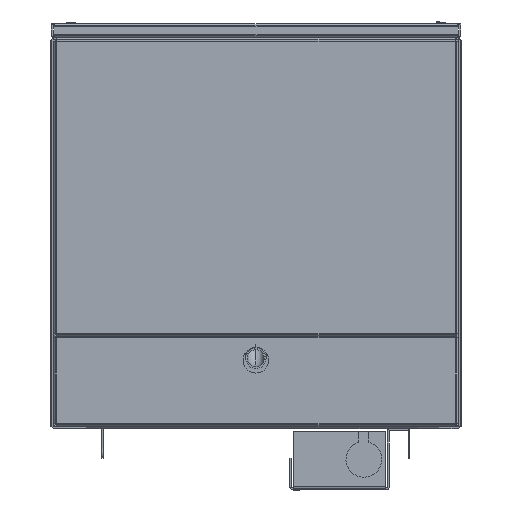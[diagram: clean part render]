
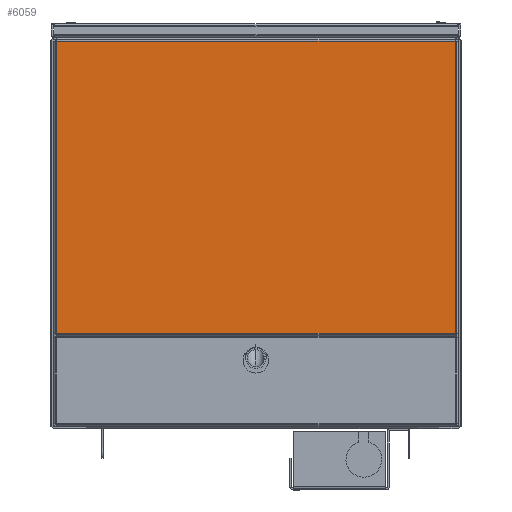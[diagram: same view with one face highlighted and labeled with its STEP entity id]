
A CAD part, front view. The second image highlights one B-rep face of the part: STEP entity #6059.
In plain terms, the highlighted planar face has unit normal (0, -1, 0).
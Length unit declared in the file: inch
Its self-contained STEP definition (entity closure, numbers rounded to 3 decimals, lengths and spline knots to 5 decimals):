
#953 = FACE_OUTER_BOUND ( 'NONE', #7189, .T. ) ;
#1390 = EDGE_CURVE ( 'NONE', #43328, #90370, #92581, .T. ) ;
#1674 = PLANE ( 'NONE',  #22386 ) ;
#2755 = EDGE_CURVE ( 'NONE', #94738, #69387, #55389, .T. ) ;
#2823 = VECTOR ( 'NONE', #66738, 39.37008 ) ;
#3134 = LINE ( 'NONE', #9344, #78979 ) ;
#3152 = CARTESIAN_POINT ( 'NONE',  ( -4.87, -0.048, -3.57 ) ) ;
#3912 = EDGE_CURVE ( 'NONE', #13367, #58535, #72608, .T. ) ;
#6059 = ADVANCED_FACE ( 'NONE', ( #953 ), #1674, .F. ) ;
#7189 = EDGE_LOOP ( 'NONE', ( #45089, #72775, #30278, #52108, #26869, #85538, #33901, #75284, #84517, #86823, #16244, #94510 ) ) ;
#8233 = CARTESIAN_POINT ( 'NONE',  ( 4.87, -0.048, 3.572 ) ) ;
#8728 = CARTESIAN_POINT ( 'NONE',  ( -4.87, -0.048, -3.57 ) ) ;
#8802 = EDGE_CURVE ( 'NONE', #56050, #58535, #90216, .T. ) ;
#9023 = DIRECTION ( 'NONE',  ( 0., 1., 0. ) ) ;
#9344 = CARTESIAN_POINT ( 'NONE',  ( 4.87, -0.048, -3.65 ) ) ;
#11156 = CARTESIAN_POINT ( 'NONE',  ( 4.87, -0.048, 3.65 ) ) ;
#13367 = VERTEX_POINT ( 'NONE', #47564 ) ;
#14110 = DIRECTION ( 'NONE',  ( -1., 0., 0. ) ) ;
#15334 = CARTESIAN_POINT ( 'NONE',  ( -4.872, -0.048, 3.57 ) ) ;
#16244 = ORIENTED_EDGE ( 'NONE', *, *, #47909, .F. ) ;
#17010 = CARTESIAN_POINT ( 'NONE',  ( 4.87, -0.048, 3.57 ) ) ;
#17027 = DIRECTION ( 'NONE',  ( 1., 0., 0. ) ) ;
#17162 = EDGE_CURVE ( 'NONE', #56050, #94605, #76858, .T. ) ;
#20535 = CARTESIAN_POINT ( 'NONE',  ( 4.872, -0.048, 3.57 ) ) ;
#21171 = CARTESIAN_POINT ( 'NONE',  ( 4.87, -0.048, 3.572 ) ) ;
#22386 = AXIS2_PLACEMENT_3D ( 'NONE', #8728, #9023, #60403 ) ;
#24408 = DIRECTION ( 'NONE',  ( 1., 0., 0. ) ) ;
#24456 = DIRECTION ( 'NONE',  ( 0., 0., -1. ) ) ;
#26869 = ORIENTED_EDGE ( 'NONE', *, *, #3912, .F. ) ;
#28414 = VECTOR ( 'NONE', #30336, 39.37008 ) ;
#29244 = VECTOR ( 'NONE', #69058, 39.37008 ) ;
#30278 = ORIENTED_EDGE ( 'NONE', *, *, #17162, .F. ) ;
#30336 = DIRECTION ( 'NONE',  ( 1., 0., 0. ) ) ;
#32637 = DIRECTION ( 'NONE',  ( -1., 0., 0. ) ) ;
#33901 = ORIENTED_EDGE ( 'NONE', *, *, #68042, .T. ) ;
#35876 = VECTOR ( 'NONE', #46627, 39.37008 ) ;
#36440 = CARTESIAN_POINT ( 'NONE',  ( -4.87, -0.048, -3.57 ) ) ;
#36920 = EDGE_CURVE ( 'NONE', #94738, #59853, #46474, .T. ) ;
#42005 = EDGE_CURVE ( 'NONE', #94605, #59853, #3134, .T. ) ;
#43328 = VERTEX_POINT ( 'NONE', #77549 ) ;
#44779 = CARTESIAN_POINT ( 'NONE',  ( -4.87, -0.048, 3.57 ) ) ;
#45089 = ORIENTED_EDGE ( 'NONE', *, *, #36920, .T. ) ;
#45821 = VERTEX_POINT ( 'NONE', #8233 ) ;
#46474 = LINE ( 'NONE', #61024, #63735 ) ;
#46627 = DIRECTION ( 'NONE',  ( -1., 0., 0. ) ) ;
#47104 = VECTOR ( 'NONE', #14110, 39.37008 ) ;
#47564 = CARTESIAN_POINT ( 'NONE',  ( 4.87, -0.048, 3.57 ) ) ;
#47909 = EDGE_CURVE ( 'NONE', #69387, #52833, #53074, .T. ) ;
#47939 = LINE ( 'NONE', #44779, #28414 ) ;
#52108 = ORIENTED_EDGE ( 'NONE', *, *, #8802, .T. ) ;
#52833 = VERTEX_POINT ( 'NONE', #79554 ) ;
#53026 = VECTOR ( 'NONE', #24408, 39.37008 ) ;
#53074 = LINE ( 'NONE', #90688, #35876 ) ;
#55389 = LINE ( 'NONE', #3152, #92275 ) ;
#56050 = VERTEX_POINT ( 'NONE', #83620 ) ;
#57273 = VECTOR ( 'NONE', #32637, 39.37008 ) ;
#57625 = EDGE_CURVE ( 'NONE', #91024, #43328, #47939, .T. ) ;
#58204 = CARTESIAN_POINT ( 'NONE',  ( -4.872, -0.048, 3.57 ) ) ;
#58535 = VERTEX_POINT ( 'NONE', #20535 ) ;
#59853 = VERTEX_POINT ( 'NONE', #75533 ) ;
#60048 = EDGE_CURVE ( 'NONE', #45821, #13367, #72734, .T. ) ;
#60403 = DIRECTION ( 'NONE',  ( 0., 0., 1. ) ) ;
#61024 = CARTESIAN_POINT ( 'NONE',  ( -4.87, -0.048, -3.572 ) ) ;
#61847 = CARTESIAN_POINT ( 'NONE',  ( 4.87, -0.048, -3.57 ) ) ;
#63735 = VECTOR ( 'NONE', #17027, 39.37008 ) ;
#66738 = DIRECTION ( 'NONE',  ( 0., 0., -1. ) ) ;
#68042 = EDGE_CURVE ( 'NONE', #45821, #90370, #86248, .T. ) ;
#69058 = DIRECTION ( 'NONE',  ( 0., 0., 1. ) ) ;
#69387 = VERTEX_POINT ( 'NONE', #36440 ) ;
#69670 = DIRECTION ( 'NONE',  ( 0., 0., -1. ) ) ;
#71279 = CARTESIAN_POINT ( 'NONE',  ( -4.87, -0.048, 3.65 ) ) ;
#72608 = LINE ( 'NONE', #17010, #53026 ) ;
#72734 = LINE ( 'NONE', #11156, #75040 ) ;
#72775 = ORIENTED_EDGE ( 'NONE', *, *, #42005, .F. ) ;
#75040 = VECTOR ( 'NONE', #69670, 39.37008 ) ;
#75284 = ORIENTED_EDGE ( 'NONE', *, *, #1390, .F. ) ;
#75533 = CARTESIAN_POINT ( 'NONE',  ( 4.87, -0.048, -3.572 ) ) ;
#76858 = LINE ( 'NONE', #61847, #57273 ) ;
#77549 = CARTESIAN_POINT ( 'NONE',  ( -4.87, -0.048, 3.57 ) ) ;
#78689 = LINE ( 'NONE', #15334, #2823 ) ;
#78979 = VECTOR ( 'NONE', #24456, 39.37008 ) ;
#79554 = CARTESIAN_POINT ( 'NONE',  ( -4.872, -0.048, -3.57 ) ) ;
#82632 = CARTESIAN_POINT ( 'NONE',  ( 4.87, -0.048, -3.57 ) ) ;
#83620 = CARTESIAN_POINT ( 'NONE',  ( 4.872, -0.048, -3.57 ) ) ;
#84079 = DIRECTION ( 'NONE',  ( 0., 0., 1. ) ) ;
#84208 = CARTESIAN_POINT ( 'NONE',  ( -4.87, -0.048, -3.572 ) ) ;
#84517 = ORIENTED_EDGE ( 'NONE', *, *, #57625, .F. ) ;
#85538 = ORIENTED_EDGE ( 'NONE', *, *, #60048, .F. ) ;
#85760 = DIRECTION ( 'NONE',  ( 0., 0., 1. ) ) ;
#86248 = LINE ( 'NONE', #21171, #47104 ) ;
#86345 = EDGE_CURVE ( 'NONE', #91024, #52833, #78689, .T. ) ;
#86823 = ORIENTED_EDGE ( 'NONE', *, *, #86345, .T. ) ;
#88232 = CARTESIAN_POINT ( 'NONE',  ( -4.87, -0.048, 3.572 ) ) ;
#90216 = LINE ( 'NONE', #90943, #29244 ) ;
#90217 = VECTOR ( 'NONE', #85760, 39.37008 ) ;
#90370 = VERTEX_POINT ( 'NONE', #88232 ) ;
#90688 = CARTESIAN_POINT ( 'NONE',  ( -4.95, -0.048, -3.57 ) ) ;
#90943 = CARTESIAN_POINT ( 'NONE',  ( 4.872, -0.048, -3.57 ) ) ;
#91024 = VERTEX_POINT ( 'NONE', #58204 ) ;
#92275 = VECTOR ( 'NONE', #84079, 39.37008 ) ;
#92581 = LINE ( 'NONE', #71279, #90217 ) ;
#94510 = ORIENTED_EDGE ( 'NONE', *, *, #2755, .F. ) ;
#94605 = VERTEX_POINT ( 'NONE', #82632 ) ;
#94738 = VERTEX_POINT ( 'NONE', #84208 ) ;
